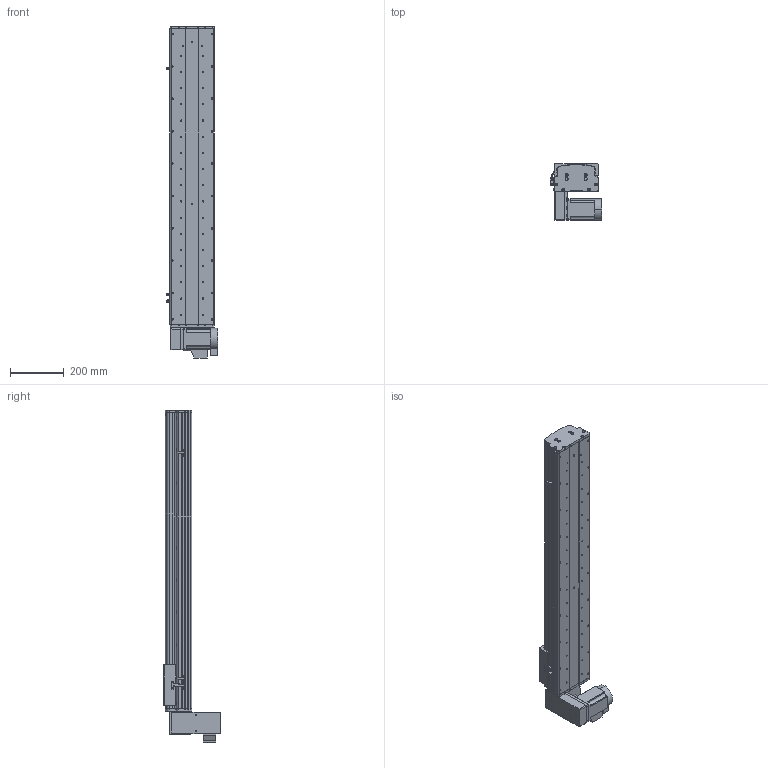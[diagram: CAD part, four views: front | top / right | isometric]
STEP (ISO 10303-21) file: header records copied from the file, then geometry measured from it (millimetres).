
FILE_DESCRIPTION (( 'STEP AP214' ), '1' );
FILE_NAME ('KSD165B-S850-MLD-CM .STEP', '2017-10-16T07:06:34', ( '微软用户' ), ( '微软中国' ), 'SwSTEP 2.0', 'SolidWorks 2014', '' );
FILE_SCHEMA (( 'AUTOMOTIVE_DESIGN' ));
Length unit declared in the file: millimetre
Products named in the file (17): KSD165模组-同步带滑动座-最新版; KSD165B-S850-MLD-CM ; 130宽模组马达安装板连板上下折丝杆同步带; 130宽模组保护罩上下左右折-同步带; HTPA26S5M250-A-H8 750W萇儂蚚; HTPA26S5M250-A-H8 400W萇儂蚚 ; 165宽马达安装板同步带左-改; KSD165模组-同步带防尘盖1-850行程-最新版; KSD165模组同步带底板-850行程-最新; 拸秶雄ん750W侜督萇儂; U倰嫖萇假蚾璃; U倰嫖萇EEㄜSX672; 覜茼え68遵圉猾敕; KSD165模组-同步带-防撞垫2; KSD165模组同步带-防撞垫1; KSD165耀郪-ヶ傷啣1-肮祭湍; KSD165模组-后端板1-同步带
Assembly tree (20 placements, depth 2):
  KSD165B-S850-MLD-CM 
    KSD165模组-同步带滑动座-最新版
    KSD165模组-后端板1-同步带
    KSD165耀郪-ヶ傷啣1-肮祭湍
    KSD165模组同步带-防撞垫1
    KSD165模组-同步带-防撞垫2
    覜茼え68遵圉猾敕
    U倰嫖萇EEㄜSX672  x3
    U倰嫖萇假蚾璃  x3
    拸秶雄ん750W侜督萇儂
    KSD165模组同步带底板-850行程-最新
    KSD165模组-同步带防尘盖1-850行程-最新版
    165宽马达安装板同步带左-改
    HTPA26S5M250-A-H8 400W萇儂蚚 
    HTPA26S5M250-A-H8 750W萇儂蚚
    130宽模组保护罩上下左右折-同步带
    130宽模组马达安装板连板上下折丝杆同步带
Bounding box: 191.2 x 210 x 1231 mm (x, y, z)
Volume: 7237749.4 mm3; surface area: 1683181.8 mm2
Topology: 21 solids, 22 shells, 1957 faces, 5520 edges, 3604 vertices
Faces by surface type: cylinder 1257, plane 588, cone 112
Entity records: 63432 total; most frequent: CARTESIAN_POINT 13014, DIRECTION 10432, ORIENTED_EDGE 9700, EDGE_CURVE 4850, AXIS2_PLACEMENT_3D 4092, VERTEX_POINT 3196, CIRCLE 2332, LINE 2248
